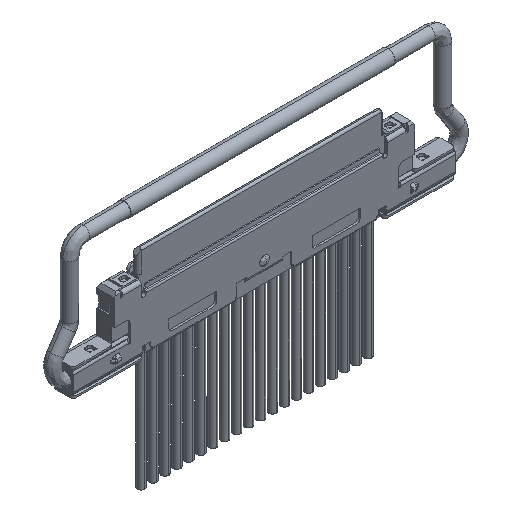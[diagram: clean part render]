
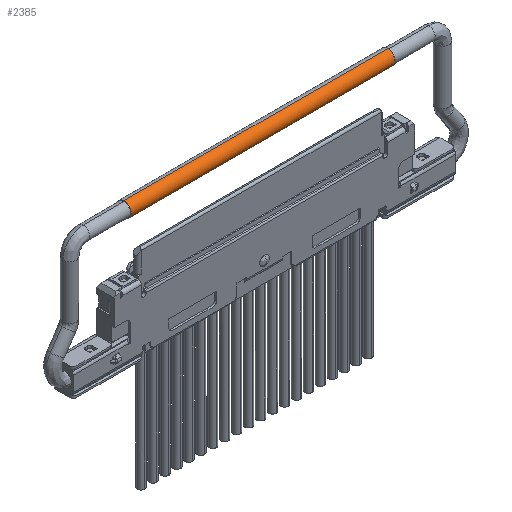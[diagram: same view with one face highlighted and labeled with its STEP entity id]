
A CAD part, isometric view. The second image highlights one B-rep face of the part: STEP entity #2385.
In plain terms, the highlighted cylindrical face has radius 0.305 mm (diameter 0.61 mm), a partial arc.
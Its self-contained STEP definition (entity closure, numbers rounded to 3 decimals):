
#321 = CARTESIAN_POINT ( 'NONE',  ( -5.525, 0.455, 3.185 ) ) ;
#742 = CARTESIAN_POINT ( 'NONE',  ( 5.525, 0.455, 3.185 ) ) ;
#1861 = ORIENTED_EDGE ( 'NONE', *, *, #35555, .F. ) ;
#2151 = EDGE_CURVE ( 'NONE', #15085, #28712, #38114, .T. ) ;
#2385 = ADVANCED_FACE ( 'NONE', ( #20487 ), #28819, .T. ) ;
#3028 = ORIENTED_EDGE ( 'NONE', *, *, #2151, .F. ) ;
#3225 = CARTESIAN_POINT ( 'NONE',  ( 5.525, 0.455, 2.575 ) ) ;
#5626 = CIRCLE ( 'NONE', #22045, 0.305 ) ;
#5800 = ORIENTED_EDGE ( 'NONE', *, *, #28800, .T. ) ;
#6014 = DIRECTION ( 'NONE',  ( -1., 0., 0. ) ) ;
#6124 = VECTOR ( 'NONE', #6014, 1000. ) ;
#6623 = DIRECTION ( 'NONE',  ( 1., 0., 0. ) ) ;
#6810 = LINE ( 'NONE', #742, #20727 ) ;
#8907 = CARTESIAN_POINT ( 'NONE',  ( 5.525, 0.455, 2.88 ) ) ;
#10637 = VERTEX_POINT ( 'NONE', #321 ) ;
#10946 = DIRECTION ( 'NONE',  ( -1., 0., 0. ) ) ;
#11224 = EDGE_LOOP ( 'NONE', ( #1861, #3028, #16555, #5800 ) ) ;
#11914 = AXIS2_PLACEMENT_3D ( 'NONE', #34270, #10946, #16769 ) ;
#12182 = LINE ( 'NONE', #29770, #6124 ) ;
#12455 = DIRECTION ( 'NONE',  ( -1., 0., 0. ) ) ;
#15085 = VERTEX_POINT ( 'NONE', #31151 ) ;
#15714 = DIRECTION ( 'NONE',  ( 0., 0., -1. ) ) ;
#16555 = ORIENTED_EDGE ( 'NONE', *, *, #25270, .T. ) ;
#16769 = DIRECTION ( 'NONE',  ( 0., 0., 1. ) ) ;
#17284 = CARTESIAN_POINT ( 'NONE',  ( -5.525, 0.455, 2.575 ) ) ;
#20487 = FACE_OUTER_BOUND ( 'NONE', #11224, .T. ) ;
#20727 = VECTOR ( 'NONE', #12455, 1000. ) ;
#22045 = AXIS2_PLACEMENT_3D ( 'NONE', #24896, #6623, #15714 ) ;
#24896 = CARTESIAN_POINT ( 'NONE',  ( -5.525, 0.455, 2.88 ) ) ;
#25270 = EDGE_CURVE ( 'NONE', #15085, #10637, #6810, .T. ) ;
#27023 = DIRECTION ( 'NONE',  ( 1., 0., 0. ) ) ;
#28712 = VERTEX_POINT ( 'NONE', #3225 ) ;
#28800 = EDGE_CURVE ( 'NONE', #10637, #34269, #5626, .T. ) ;
#28819 = CYLINDRICAL_SURFACE ( 'NONE', #11914, 0.305 ) ;
#29770 = CARTESIAN_POINT ( 'NONE',  ( 5.525, 0.455, 2.575 ) ) ;
#31151 = CARTESIAN_POINT ( 'NONE',  ( 5.525, 0.455, 3.185 ) ) ;
#34269 = VERTEX_POINT ( 'NONE', #17284 ) ;
#34270 = CARTESIAN_POINT ( 'NONE',  ( 5.525, 0.455, 2.88 ) ) ;
#35555 = EDGE_CURVE ( 'NONE', #28712, #34269, #12182, .T. ) ;
#35721 = DIRECTION ( 'NONE',  ( 0., 0., -1. ) ) ;
#36514 = AXIS2_PLACEMENT_3D ( 'NONE', #8907, #27023, #35721 ) ;
#38114 = CIRCLE ( 'NONE', #36514, 0.305 ) ;
